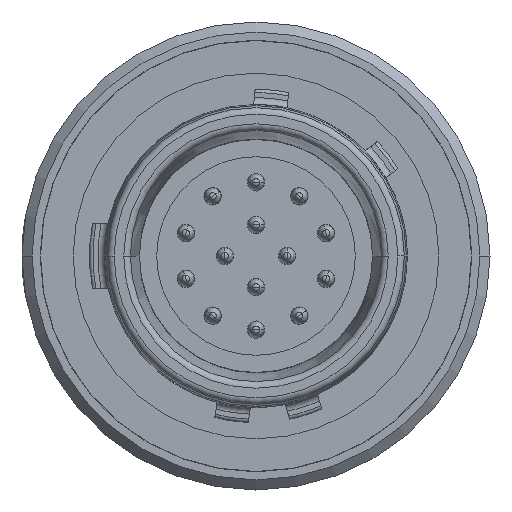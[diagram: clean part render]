
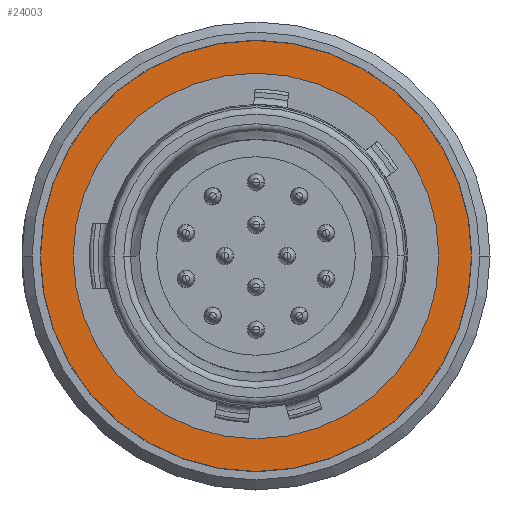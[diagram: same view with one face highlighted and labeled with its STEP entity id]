
A CAD part, left-side view. The second image highlights one B-rep face of the part: STEP entity #24003.
In plain terms, the highlighted planar face has unit normal (-1, 0, 0).
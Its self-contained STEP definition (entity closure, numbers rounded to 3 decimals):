
#6290=CARTESIAN_POINT('',(0.05,0.,0.));
#6291=DIRECTION('',(1.,0.,0.));
#6292=DIRECTION('',(0.,-1.,0.));
#6293=AXIS2_PLACEMENT_3D('',#6290,#6291,#6292);
#6304=CARTESIAN_POINT('',(0.05,0.,0.));
#6305=DIRECTION('',(-1.,0.,0.));
#6306=DIRECTION('',(0.,-1.,0.));
#6307=AXIS2_PLACEMENT_3D('',#6304,#6305,#6306);
#6309=CARTESIAN_POINT('',(0.05,0.,0.));
#6310=DIRECTION('',(-1.,0.,0.));
#6311=DIRECTION('',(0.,1.,0.));
#6312=AXIS2_PLACEMENT_3D('',#6309,#6310,#6311);
#6319=CARTESIAN_POINT('',(0.05,0.,0.));
#6320=DIRECTION('',(-1.,0.,0.));
#6321=DIRECTION('',(0.,-1.,0.));
#6322=AXIS2_PLACEMENT_3D('',#6319,#6320,#6321);
#17186=CARTESIAN_POINT('',(0.05,-6.4,0.));
#17187=CARTESIAN_POINT('',(0.05,6.4,0.));
#17188=VERTEX_POINT('',#17186);
#17189=VERTEX_POINT('',#17187);
#17194=CARTESIAN_POINT('',(0.05,5.43,0.));
#17195=CARTESIAN_POINT('',(0.05,-5.43,0.));
#17196=VERTEX_POINT('',#17194);
#17197=VERTEX_POINT('',#17195);
#23988=CARTESIAN_POINT('',(0.05,0.,0.));
#23989=DIRECTION('',(-1.,0.,0.));
#23990=DIRECTION('',(0.,1.,0.));
#23991=AXIS2_PLACEMENT_3D('',#23988,#23989,#23990);
#23992=PLANE('',#23991);
#23993=ORIENTED_EDGE('',*,*,#23975,.F.);
#23994=ORIENTED_EDGE('',*,*,#23954,.T.);
#23995=EDGE_LOOP('',(#23993,#23994));
#23996=FACE_OUTER_BOUND('',#23995,.F.);
#23998=ORIENTED_EDGE('',*,*,#23997,.T.);
#24000=ORIENTED_EDGE('',*,*,#23999,.T.);
#24001=EDGE_LOOP('',(#23998,#24000));
#24002=FACE_BOUND('',#24001,.F.);
#6294=CIRCLE('',#6293,6.4);
#6308=CIRCLE('',#6307,6.4);
#6313=CIRCLE('',#6312,5.43);
#6323=CIRCLE('',#6322,5.43);
#23954=EDGE_CURVE('',#17188,#17189,#6294,.T.);
#23975=EDGE_CURVE('',#17188,#17189,#6308,.T.);
#23997=EDGE_CURVE('',#17196,#17197,#6313,.T.);
#23999=EDGE_CURVE('',#17197,#17196,#6323,.T.);
#24003=ADVANCED_FACE('',(#23996,#24002),#23992,.T.);
